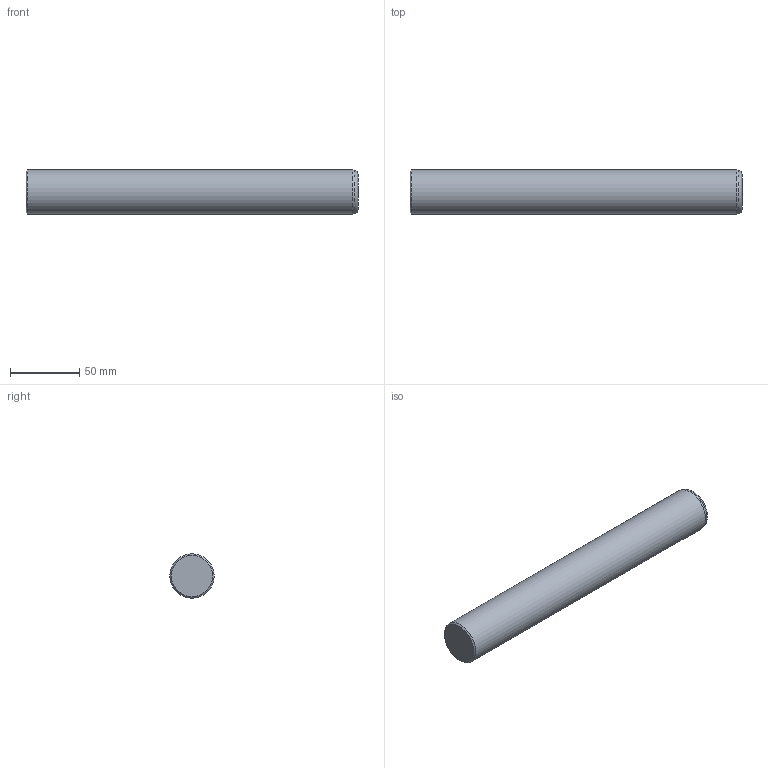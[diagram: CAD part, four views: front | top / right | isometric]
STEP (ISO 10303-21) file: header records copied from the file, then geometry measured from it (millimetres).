
FILE_DESCRIPTION(/* description */ ('Impex Ready, www.impex-ready.pl'),/* implementation_level */ '2;1');
FILE_NAME(/* name */ 'C:\Users\VIKKY\Nextcloud\SM\projekt 10 - części na stronę internetową\Pliki_3D_new\256 CIS Słup\256 CIS_STEP\CIS32240.ipt.step',/* time_stamp */ '2021-12-20T12:44:19+01:00',/* author */ ('SM'),/* organization */ (''),/* preprocessor_version */ 'ST-DEVELOPER v18.1',/* originating_system */ 'Autodesk Inventor 2021',/* authorisation */ '');
FILE_SCHEMA (('AUTOMOTIVE_DESIGN { 1 0 10303 214 3 1 1 }'));
Length unit declared in the file: millimetre
Products named in the file (1): CIS32240
Bounding box: 240 x 32 x 32 mm (x, y, z)
Volume: 192675.9 mm3; surface area: 25508.5 mm2
Topology: 1 solids, 1 shells, 6 faces, 12 edges, 8 vertices
Faces by surface type: cone 2, plane 2, torus 1, cylinder 1
Full cylindrical faces by diameter (mm): 32 x1
Entity records: 239 total; most frequent: DIRECTION 35, CARTESIAN_POINT 27, ORIENTED_EDGE 24, AXIS2_PLACEMENT_3D 16, EDGE_CURVE 12, CIRCLE 9, VERTEX_POINT 8, STYLED_ITEM 7
